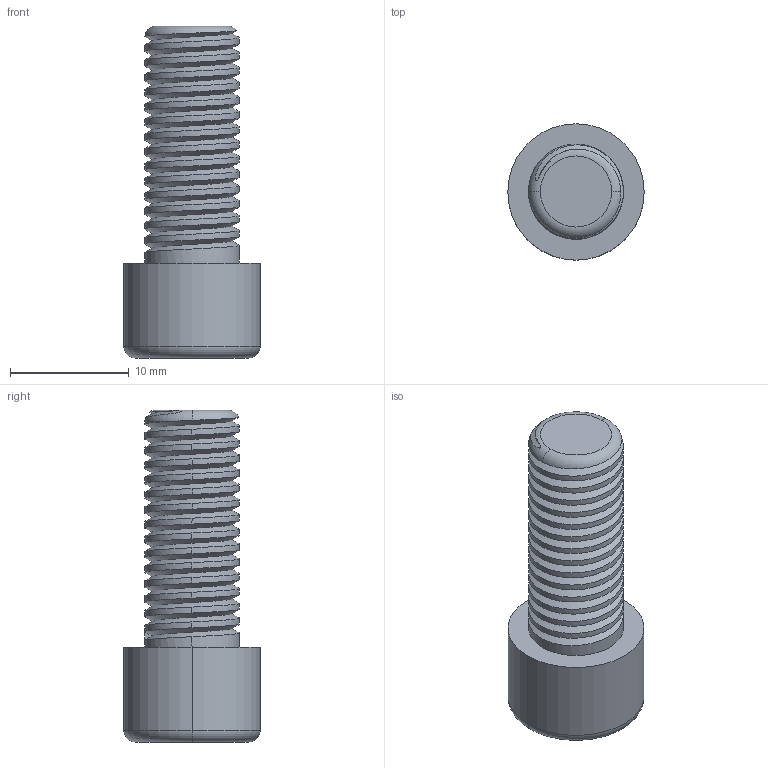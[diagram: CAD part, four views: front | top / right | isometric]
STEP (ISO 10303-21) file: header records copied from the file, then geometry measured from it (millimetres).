
FILE_DESCRIPTION (( 'STEP AP203' ), '1' );
FILE_NAME ('144-CE-IB-M8.STEP', '2015-07-09T09:03:25', ( '' ), ( '' ), 'SwSTEP 2.0', 'SolidWorks 2013', '' );
FILE_SCHEMA (( 'CONFIG_CONTROL_DESIGN' ));
Length unit declared in the file: millimetre
Products named in the file (1): 144-CE-IB-M8
Bounding box: 11.5 x 11.5 x 28 mm (x, y, z)
Volume: 1564.2 mm3; surface area: 1322.6 mm2
Topology: 1 solids, 1 shells, 50 faces, 135 edges, 89 vertices
Faces by surface type: cylinder 32, plane 11, torus 5, bspline 2
Entity records: 3280 total; most frequent: CARTESIAN_POINT 2124, ORIENTED_EDGE 270, DIRECTION 185, EDGE_CURVE 135, VERTEX_POINT 89, AXIS2_PLACEMENT_3D 66, VECTOR 53, LINE 53
